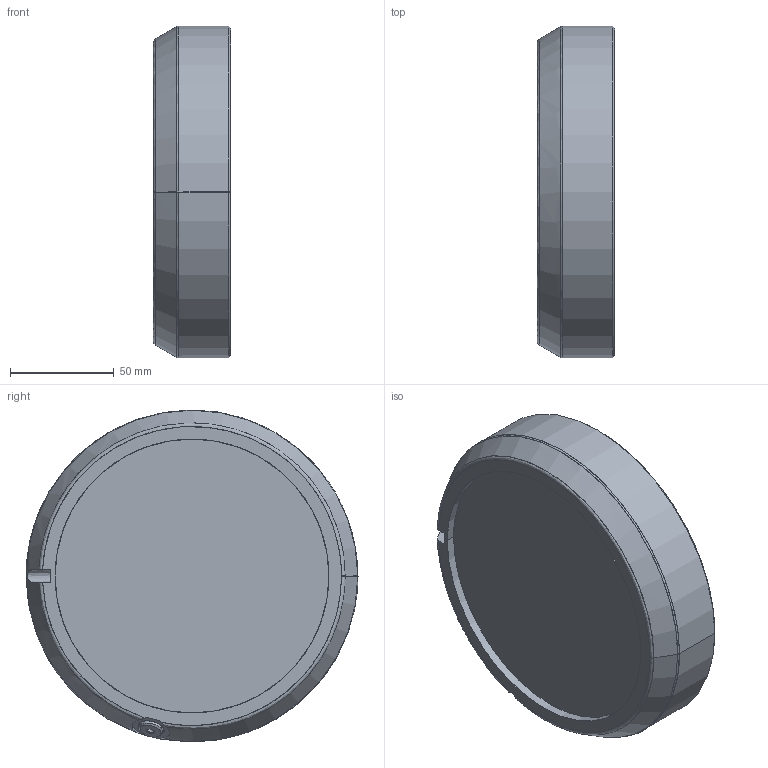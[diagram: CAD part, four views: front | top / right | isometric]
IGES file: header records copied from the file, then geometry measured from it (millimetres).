
Start section: SolidWorks IGES file using analytic representation for surfaces
Global section: file name: N:\DM\Robotics\SEROP_PROJ\Product Development\DevelopmentProjects\Manipulator_Modularity\04. Product Design\06. CAD\Amanda\6730S Simulation models\\IRB6730S-MH3_150kg-400_OC_01_IGES_J\IRB6730S_150kg-400_OC_01_LINK06_CAD.igs; native system: SolidWorks 2024; preprocessor: SolidWorks 2024; author: SEJOHLUN; date: 251219.145453; units: millimetre
Bounding box: 37.3 x 160 x 160 mm (x, y, z)
Surface area: 78182.1 mm2 (no closed solid volume)
Topology: 0 solids, 0 shells, 179 faces, 2862 edges, 2836 vertices
Faces by surface type: revolution 140, bspline 39
